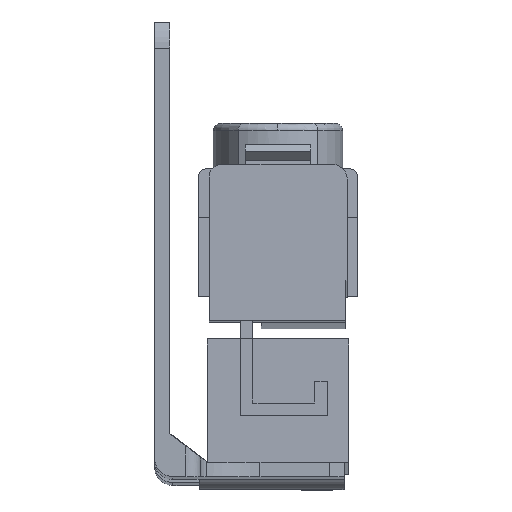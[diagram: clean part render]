
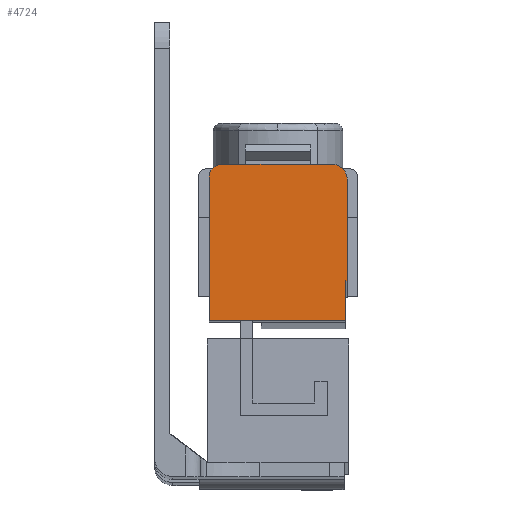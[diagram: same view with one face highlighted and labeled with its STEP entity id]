
A CAD part, front view. The second image highlights one B-rep face of the part: STEP entity #4724.
In plain terms, the highlighted planar face has unit normal (0, -1, 0.005).
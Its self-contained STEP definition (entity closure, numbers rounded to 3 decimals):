
#707 = PLANE ( 'NONE',  #4520 ) ;
#708 = CARTESIAN_POINT ( 'NONE',  ( 9.25, -24.683, -6.412 ) ) ;
#709 = DIRECTION ( 'NONE',  ( 0., -1., 0.005 ) ) ;
#710 = DIRECTION ( 'NONE',  ( 0., -0.005, -1. ) ) ;
#1363 = CARTESIAN_POINT ( 'NONE',  ( 26.5, -24.685, -6.712 ) ) ;
#1364 = DIRECTION ( 'NONE',  ( 0., 0.005, 1. ) ) ;
#1369 = CARTESIAN_POINT ( 'NONE',  ( 24.45, -24.685, -6.712 ) ) ;
#1370 = DIRECTION ( 'NONE',  ( 0., -1., 0.005 ) ) ;
#1371 = DIRECTION ( 'NONE',  ( 0., 0.005, 1. ) ) ;
#1378 = CARTESIAN_POINT ( 'NONE',  ( 9.25, -24.674, -4.662 ) ) ;
#1379 = DIRECTION ( 'NONE',  ( -1., 0., 0. ) ) ;
#1384 = CARTESIAN_POINT ( 'NONE',  ( 9.25, -24.683, -6.412 ) ) ;
#1385 = DIRECTION ( 'NONE',  ( 0., -1., 0.005 ) ) ;
#1386 = DIRECTION ( 'NONE',  ( 0., -0.005, -1. ) ) ;
#1393 = CARTESIAN_POINT ( 'NONE',  ( 7.5, -24.683, -6.412 ) ) ;
#1394 = DIRECTION ( 'NONE',  ( 0., -0.005, -1. ) ) ;
#1395 = CARTESIAN_POINT ( 'NONE',  ( 7.5, -24.758, -20.662 ) ) ;
#1396 = DIRECTION ( 'NONE',  ( 1., 0., 0. ) ) ;
#1401 = CARTESIAN_POINT ( 'NONE',  ( 26.25, -24.787, -26.162 ) ) ;
#1402 = DIRECTION ( 'NONE',  ( 1., 0., 0. ) ) ;
#1403 = CARTESIAN_POINT ( 'NONE',  ( 26.25, -24.787, -26.162 ) ) ;
#1404 = DIRECTION ( 'NONE',  ( 0., 0.005, 1. ) ) ;
#2051 = CARTESIAN_POINT ( 'NONE',  ( 26.5, -24.685, -6.712 ) ) ;
#2098 = CARTESIAN_POINT ( 'NONE',  ( 7.5, -24.787, -26.162 ) ) ;
#2126 = CARTESIAN_POINT ( 'NONE',  ( 26.25, -24.758, -20.662 ) ) ;
#2160 = CARTESIAN_POINT ( 'NONE',  ( 7.5, -24.683, -6.412 ) ) ;
#2179 = CARTESIAN_POINT ( 'NONE',  ( 24.45, -24.674, -4.662 ) ) ;
#2189 = CARTESIAN_POINT ( 'NONE',  ( 26.25, -24.787, -26.162 ) ) ;
#2190 = CARTESIAN_POINT ( 'NONE',  ( 26.5, -24.758, -20.662 ) ) ;
#2191 = CARTESIAN_POINT ( 'NONE',  ( 9.25, -24.674, -4.662 ) ) ;
#2244 = LINE ( 'NONE', #1403, #2245 ) ;
#2245 = VECTOR ( 'NONE', #1404, 1000. ) ;
#2681 = FACE_OUTER_BOUND ( 'NONE', #5063, .T. ) ;
#3603 = LINE ( 'NONE', #1363, #3604 ) ;
#3604 = VECTOR ( 'NONE', #1364, 1000. ) ;
#3610 = CIRCLE ( 'NONE', #4370, 2.05 ) ;
#3616 = LINE ( 'NONE', #1378, #3617 ) ;
#3617 = VECTOR ( 'NONE', #1379, 1000. ) ;
#3623 = CIRCLE ( 'NONE', #4371, 1.75 ) ;
#3629 = LINE ( 'NONE', #1393, #3630 ) ;
#3630 = VECTOR ( 'NONE', #1394, 1000. ) ;
#3631 = LINE ( 'NONE', #1395, #3632 ) ;
#3632 = VECTOR ( 'NONE', #1396, 1000. ) ;
#3637 = LINE ( 'NONE', #1401, #3638 ) ;
#3638 = VECTOR ( 'NONE', #1402, 1000. ) ;
#3750 = VERTEX_POINT ( 'NONE', #2051 ) ;
#3797 = VERTEX_POINT ( 'NONE', #2098 ) ;
#3825 = VERTEX_POINT ( 'NONE', #2126 ) ;
#3859 = VERTEX_POINT ( 'NONE', #2160 ) ;
#3878 = VERTEX_POINT ( 'NONE', #2179 ) ;
#3887 = VERTEX_POINT ( 'NONE', #2189 ) ;
#3888 = VERTEX_POINT ( 'NONE', #2190 ) ;
#3889 = VERTEX_POINT ( 'NONE', #2191 ) ;
#4118 = EDGE_CURVE ( 'NONE', #3888, #3750, #3603, .T. ) ;
#4121 = EDGE_CURVE ( 'NONE', #3750, #3878, #3610, .T. ) ;
#4125 = EDGE_CURVE ( 'NONE', #3878, #3889, #3616, .T. ) ;
#4128 = EDGE_CURVE ( 'NONE', #3889, #3859, #3623, .T. ) ;
#4132 = EDGE_CURVE ( 'NONE', #3859, #3797, #3629, .T. ) ;
#4133 = EDGE_CURVE ( 'NONE', #3825, #3888, #3631, .T. ) ;
#4136 = EDGE_CURVE ( 'NONE', #3797, #3887, #3637, .T. ) ;
#4137 = EDGE_CURVE ( 'NONE', #3887, #3825, #2244, .T. ) ;
#4370 = AXIS2_PLACEMENT_3D ( 'NONE', #1369, #1370, #1371 ) ;
#4371 = AXIS2_PLACEMENT_3D ( 'NONE', #1384, #1385, #1386 ) ;
#4520 = AXIS2_PLACEMENT_3D ( 'NONE', #708, #709, #710 ) ;
#4724 = ADVANCED_FACE ( 'NONE', ( #2681 ), #707, .T. ) ;
#5063 = EDGE_LOOP ( 'NONE', ( #5202, #5200, #5201, #5199, #5198, #5177, #5178, #5179 ) ) ;
#5177 = ORIENTED_EDGE ( 'NONE', *, *, #4136, .T. ) ;
#5178 = ORIENTED_EDGE ( 'NONE', *, *, #4137, .T. ) ;
#5179 = ORIENTED_EDGE ( 'NONE', *, *, #4133, .T. ) ;
#5198 = ORIENTED_EDGE ( 'NONE', *, *, #4132, .T. ) ;
#5199 = ORIENTED_EDGE ( 'NONE', *, *, #4128, .T. ) ;
#5200 = ORIENTED_EDGE ( 'NONE', *, *, #4121, .T. ) ;
#5201 = ORIENTED_EDGE ( 'NONE', *, *, #4125, .T. ) ;
#5202 = ORIENTED_EDGE ( 'NONE', *, *, #4118, .T. ) ;
